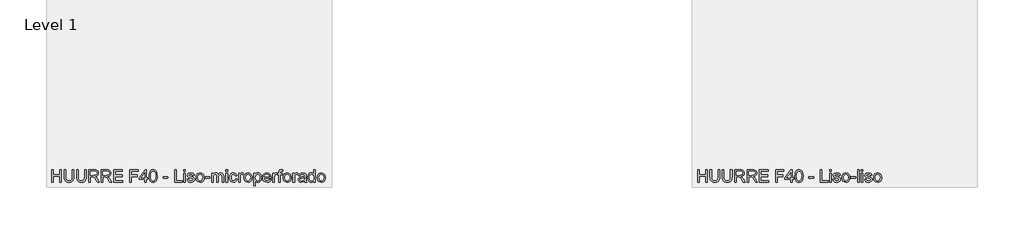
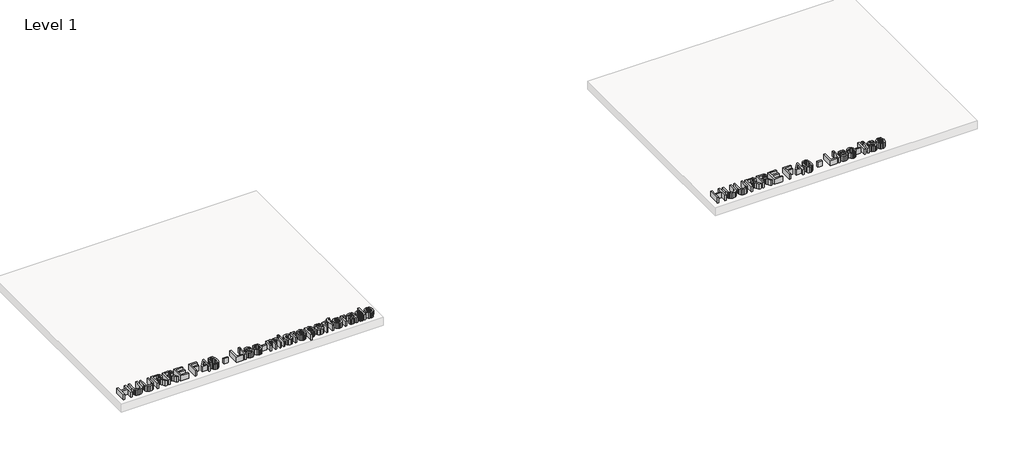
# One storey, part 2 of 2: 2 proxies.
"""IFC4 building model written with IfcOpenShell, lengths in millimetres."""

from ifc_helpers import new_model, si_unit, origin, origin_with_axes, place, context, project, spatial, polyline, outline, extrude, element, save

model = new_model("IFC4")

# Units and contexts
model_context = context("Model", 3, world=origin())
ifc_project = project(units=[si_unit("LENGTHUNIT", "METRE", prefix="MILLI")], contexts=[model_context])

# Site, building, storey
site = spatial("IfcSite", under=ifc_project)
building = spatial("IfcBuilding", under=site)
storey = spatial("IfcBuildingStorey", under=building, Name="Level 1", Elevation=0.0)

# Proxies
placement = place(None, origin())
element("IfcBuildingElementProxy", 1, Name="200mm Arial", ObjectType="200mm Arial", at=placement, inside=storey, context=model_context, shape_type="SweptSolid", body=[
    extrude(outline(polyline([(12680.8097426, 798.4307978), (12680.8097426, 999.3434181), (12705.9238201, 999.3434181), (12705.9238201, 917.7226661), (12812.6586497, 917.7226661), (12812.6586497, 999.3434181), (12837.7727272, 999.3434181), (12837.7727272, 798.4307978), (12812.6586497, 798.4307978), (12812.6586497, 892.6085886), (12705.9238201, 892.6085886), (12705.9238201, 798.4307978), (12680.8097426, 798.4307978)])), origin_with_axes(), (0.0, 0.0, 1.0), 100.0),
    extrude(outline(polyline([(13013.57127, 999.3434181), (13038.6853475, 999.3434181), (13038.6853475, 883.4360642), (13036.9808276, 856.2925043), (13031.8672679, 835.3906756), (13022.3145987, 819.2651815), (13007.2927506, 806.4506253), (12986.7649353, 798.0813099), (12960.6943645, 795.2915381), (12935.1940109, 797.7195593), (12914.807217, 805.0036228), (12899.5278515, 816.8923426), (12889.3497829, 833.1343327), (12883.6292179, 854.9190782), (12881.7223629, 883.4360642), (12881.7223629, 999.3434181), (12906.8364404, 999.3434181), (12906.8364404, 884.318981), (12908.0749765, 861.7494205), (12911.7905846, 846.034728), (12918.5228252, 835.1515523), (12928.8112583, 827.0765425), (12942.2266884, 822.0733474), (12958.3399198, 820.4056157), (12983.883193, 823.7042909), (13000.8670784, 833.6003165), (13010.3952221, 852.8773331), (13013.57127, 884.318981), (13013.57127, 999.3434181)])), origin_with_axes(), (0.0, 0.0, 1.0), 100.0),
    extrude(outline(polyline([(13214.4838903, 999.3434181), (13239.5979678, 999.3434181), (13239.5979678, 883.4360642), (13237.8934479, 856.2925043), (13232.7798882, 835.3906756), (13223.227219, 819.2651815), (13208.2053709, 806.4506253), (13187.6775556, 798.0813099), (13161.6069848, 795.2915381), (13136.1066312, 797.7195593), (13115.7198373, 805.0036228), (13100.4404718, 816.8923426), (13090.2624032, 833.1343327), (13084.5418382, 854.9190782), (13082.6349832, 883.4360642), (13082.6349832, 999.3434181), (13107.7490607, 999.3434181), (13107.7490607, 884.318981), (13108.9875968, 861.7494205), (13112.7032049, 846.034728), (13119.4354455, 835.1515523), (13129.7238786, 827.0765425), (13143.1393087, 822.0733474), (13159.2525401, 820.4056157), (13184.7958133, 823.7042909), (13201.7796987, 833.6003165), (13211.3078424, 852.8773331), (13214.4838903, 884.318981), (13214.4838903, 999.3434181)])), origin_with_axes(), (0.0, 0.0, 1.0), 100.0),
    extrude(outline(polyline([(13283.5476035, 798.4307978), (13283.5476035, 999.3434181), (13370.1224997, 999.3434181), (13393.3910359, 997.9883861), (13410.319739, 993.92329), (13422.6928368, 986.4184973), (13432.2945569, 974.7443754), (13438.4565803, 960.2682189), (13440.5105881, 944.3573226), (13437.1076797, 924.5652712), (13426.8989543, 908.1577342), (13409.5778437, 896.127993), (13384.8377795, 889.4693289), (13399.1116009, 878.7271746), (13419.467738, 852.8773331), (13452.969525, 798.4307978), (13423.7842201, 798.4307978), (13397.6400729, 840.0750397), (13378.7554639, 867.6416638), (13365.4871866, 880.6646865), (13353.5432844, 885.4471524), (13338.9751574, 886.3300692), (13308.661681, 886.3300692), (13308.661681, 798.4307978), (13283.5476035, 798.4307978)]), holes=[polyline([(13308.661681, 911.4441467), (13364.8740499, 911.4441467), (13393.5443201, 915.0003393), (13402.9743619, 919.6233898), (13409.8292297, 926.3801557), (13415.3965106, 943.4253548), (13412.7416288, 955.6758253), (13404.7769836, 965.5473255), (13391.0733793, 972.0588368), (13371.2016202, 974.2293406), (13308.661681, 974.2293406), (13308.661681, 911.4441467)])]), origin_with_axes(), (0.0, 0.0, 1.0), 100.0),
    extrude(outline(polyline([(13484.4602238, 798.4307978), (13484.4602238, 999.3434181), (13571.03512, 999.3434181), (13594.3036562, 997.9883861), (13611.2323593, 993.92329), (13623.6054571, 986.4184973), (13633.2071772, 974.7443754), (13639.3692006, 960.2682189), (13641.4232084, 944.3573226), (13638.0203, 924.5652712), (13627.8115746, 908.1577342), (13610.490464, 896.127993), (13585.7503998, 889.4693289), (13600.0242212, 878.7271746), (13620.3803583, 852.8773331), (13653.8821453, 798.4307978), (13624.6968404, 798.4307978), (13598.5526932, 840.0750397), (13579.6680842, 867.6416638), (13566.3998069, 880.6646865), (13554.4559047, 885.4471524), (13539.8877777, 886.3300692), (13509.5743013, 886.3300692), (13509.5743013, 798.4307978), (13484.4602238, 798.4307978)]), holes=[polyline([(13509.5743013, 911.4441467), (13565.7866702, 911.4441467), (13594.4569404, 915.0003393), (13603.8869822, 919.6233898), (13610.74185, 926.3801557), (13616.3091309, 943.4253548), (13613.6542491, 955.6758253), (13605.6896039, 965.5473255), (13591.9859996, 972.0588368), (13572.1142405, 974.2293406), (13509.5743013, 974.2293406), (13509.5743013, 911.4441467)])]), origin_with_axes(), (0.0, 0.0, 1.0), 100.0),
    extrude(outline(polyline([(13685.3728441, 798.4307978), (13685.3728441, 999.3434181), (13829.7787899, 999.3434181), (13829.7787899, 974.2293406), (13710.4869216, 974.2293406), (13710.4869216, 914.5834064), (13823.5002706, 914.5834064), (13823.5002706, 889.4693289), (13710.4869216, 889.4693289), (13710.4869216, 823.5448753), (13832.9180496, 823.5448753), (13832.9180496, 798.4307978), (13685.3728441, 798.4307978)])), origin_with_axes(), (0.0, 0.0, 1.0), 100.0),
    extrude(outline(polyline([(13949.0706582, 798.4307978), (13949.0706582, 999.3434181), (14084.058825, 999.3434181), (14084.058825, 974.2293406), (13974.1847358, 974.2293406), (13974.1847358, 914.5834064), (14068.3625265, 914.5834064), (14068.3625265, 889.4693289), (13974.1847358, 889.4693289), (13974.1847358, 798.4307978), (13949.0706582, 798.4307978)])), origin_with_axes(), (0.0, 0.0, 1.0), 100.0),
    extrude(outline(polyline([(14190.7936545, 798.4307978), (14190.7936545, 845.5196932), (14099.7551235, 845.5196932), (14099.7551235, 870.6337707), (14197.0721739, 996.2041584), (14215.9077321, 996.2041584), (14215.9077321, 870.6337707), (14241.0218096, 870.6337707), (14241.0218096, 845.5196932), (14215.9077321, 845.5196932), (14215.9077321, 798.4307978), (14190.7936545, 798.4307978)]), holes=[polyline([(14190.7936545, 870.6337707), (14190.7936545, 948.2323462), (14130.6572111, 870.6337707), (14190.7936545, 870.6337707)])]), origin_with_axes(), (0.0, 0.0, 1.0), 100.0),
    extrude(outline(polyline([(14262.9966275, 897.2684272), (14264.8421688, 929.4274449), (14270.3787928, 955.0749514), (14279.5513172, 974.6033539), (14292.3045597, 988.4050601), (14308.7304908, 996.6088286), (14328.921081, 999.3434181), (14344.3966503, 997.7247373), (14358.2535387, 992.868695), (14369.8418216, 984.9653635), (14378.5115739, 974.2048151), (14390.2837978, 944.4799499), (14394.8455345, 897.2684272), (14393.0183873, 865.2933504), (14387.5369456, 839.7071577), (14378.4196034, 820.160361), (14365.684755, 806.3034725), (14349.2220358, 798.0445217), (14328.921081, 795.2915381), (14302.8259848, 800.0740041), (14283.009408, 814.4214019), (14274.2538165, 829.5505489), (14267.9998226, 848.4014355), (14262.9966275, 897.2684272)]), holes=[polyline([(14288.110705, 897.3174781), (14291.053761, 857.8130832), (14299.8829288, 834.9492172), (14313.0285788, 824.041516), (14328.921081, 820.4056157), (14344.8135832, 824.0537788), (14357.9592331, 834.9982681), (14366.788401, 857.8743969), (14369.731457, 897.3174781), (14366.8865029, 935.9328249), (14358.3516406, 958.9745005), (14345.2305161, 970.4156306), (14328.6267754, 974.2293406), (14312.9059515, 970.8693517), (14300.2753363, 960.789385), (14291.1518628, 936.3129696), (14288.110705, 897.3174781)])]), origin_with_axes(), (0.0, 0.0, 1.0), 100.0),
    extrude(outline(polyline([(14489.0233253, 858.076732), (14489.0233253, 883.1908095), (14567.5048176, 883.1908095), (14567.5048176, 858.076732), (14489.0233253, 858.076732)])), origin_with_axes(), (0.0, 0.0, 1.0), 100.0),
    extrude(outline(polyline([(14677.3789068, 798.4307978), (14677.3789068, 999.3434181), (14702.4929844, 999.3434181), (14702.4929844, 823.5448753), (14802.9492945, 823.5448753), (14802.9492945, 798.4307978), (14677.3789068, 798.4307978)])), origin_with_axes(), (0.0, 0.0, 1.0), 100.0),
    extrude(outline(polyline([(14828.063372, 798.4307978), (14828.063372, 945.9760033), (14853.1774496, 945.9760033), (14853.1774496, 798.4307978), (14828.063372, 798.4307978)])), origin_with_axes(), (0.0, 0.0, 1.0), 100.0),
    extrude(outline(polyline([(14828.063372, 974.2293406), (14828.063372, 999.3434181), (14853.1774496, 999.3434181), (14853.1774496, 974.2293406), (14828.063372, 974.2293406)])), origin_with_axes(), (0.0, 0.0, 1.0), 100.0),
    extrude(outline(polyline([(14881.4307868, 842.3804335), (14906.5448644, 845.5196932), (14910.5057272, 834.7775389), (14918.1699354, 826.8803388), (14929.58654, 822.0242964), (14944.8045919, 820.4056157), (14959.8387027, 821.8894064), (14970.4091787, 826.3407785), (14976.6631726, 832.7909762), (14978.7478373, 840.2712434), (14976.6509099, 846.6723901), (14970.3601278, 851.5529579), (14944.5102863, 858.7143941), (14906.6920172, 871.0016527), (14897.1209539, 877.1759389), (14890.1863783, 885.3490505), (14884.5700465, 905.6070857), (14889.0827323, 924.3200166), (14901.3945164, 938.6183634), (14917.360595, 946.0495797), (14938.9675309, 949.115263), (14969.5262619, 944.1856443), (14980.9551292, 938.3853715), (14988.9504313, 930.8437906), (14997.5833954, 908.304887), (14972.4693179, 905.1656273), (14969.2994014, 913.0689589), (14963.0270133, 919.0225158), (14940.9295682, 924.0011855), (14926.508594, 922.8117004), (14916.8946112, 919.243245), (14911.4867458, 914.0928971), (14909.684124, 908.1577342), (14912.6762309, 900.8491453), (14922.0449591, 895.3063899), (14943.6764204, 889.9598382), (14980.5381963, 878.1385634), (14997.6569718, 864.7476588), (15002.3106791, 854.9006841), (15003.8619148, 842.9199938), (15002.0408989, 830.5346333), (14996.5778513, 818.8850367), (14987.6812384, 808.8847778), (14975.5595266, 801.4474302), (14960.9178232, 796.8305111), (14944.4612353, 795.2915381), (14919.1386913, 798.2591195), (14900.6587524, 807.1618638), (14888.3224429, 821.9016691), (14881.4307868, 842.3804335)])), origin_with_axes(), (0.0, 0.0, 1.0), 100.0),
    extrude(outline(polyline([(15025.8367327, 872.2034006), (15031.2691235, 907.7775895), (15038.0596119, 921.6007555), (15047.5662958, 932.7813024), (15067.7017037, 945.0317729), (15091.8102371, 949.115263), (15118.1935075, 944.1427247), (15139.2670145, 929.2251098), (15153.0809834, 905.5396407), (15157.6856397, 874.2635397), (15155.650026, 848.8919448), (15149.5431849, 829.5781401), (15139.542926, 815.1142463), (15125.8270589, 804.2923843), (15109.5360179, 797.5417497), (15091.8102371, 795.2915381), (15065.1081356, 800.2456823), (15044.0591542, 815.1081149), (15030.392338, 839.2902247), (15025.8367327, 872.2034006)]), holes=[polyline([(15050.9508102, 872.2524515), (15053.857078, 849.5234756), (15062.5758812, 833.3305364), (15075.6970057, 823.6368458), (15091.8102371, 820.4056157), (15107.8498921, 823.6552399), (15120.9464911, 833.4041128), (15129.6652944, 849.8116498), (15132.5715622, 873.0372664), (15129.6469003, 895.1040548), (15120.8729147, 911.0762647), (15107.7579216, 920.7699553), (15091.8102371, 924.0011855), (15075.6970057, 920.782218), (15062.5758812, 911.1253157), (15053.857078, 894.9691647), (15050.9508102, 872.2524515)])]), origin_with_axes(), (0.0, 0.0, 1.0), 100.0),
    extrude(outline(polyline([(15173.3819382, 858.076732), (15173.3819382, 883.1908095), (15251.8634305, 883.1908095), (15251.8634305, 858.076732), (15173.3819382, 858.076732)])), origin_with_axes(), (0.0, 0.0, 1.0), 100.0),
    extrude(outline(polyline([(15280.1167677, 798.4307978), (15280.1167677, 999.3434181), (15305.2308453, 999.3434181), (15305.2308453, 798.4307978), (15280.1167677, 798.4307978)])), origin_with_axes(), (0.0, 0.0, 1.0), 100.0),
    extrude(outline(polyline([(15342.9019616, 798.4307978), (15342.9019616, 945.9760033), (15368.0160391, 945.9760033), (15368.0160391, 798.4307978), (15342.9019616, 798.4307978)])), origin_with_axes(), (0.0, 0.0, 1.0), 100.0),
    extrude(outline(polyline([(15342.9019616, 974.2293406), (15342.9019616, 999.3434181), (15368.0160391, 999.3434181), (15368.0160391, 974.2293406), (15342.9019616, 974.2293406)])), origin_with_axes(), (0.0, 0.0, 1.0), 100.0),
    extrude(outline(polyline([(15396.2693763, 842.3804335), (15421.3834539, 845.5196932), (15425.3443167, 834.7775389), (15433.0085249, 826.8803388), (15444.4251295, 822.0242964), (15459.6431814, 820.4056157), (15474.6772922, 821.8894064), (15485.2477682, 826.3407785), (15491.5017622, 832.7909762), (15493.5864268, 840.2712434), (15491.4894994, 846.6723901), (15485.1987173, 851.5529579), (15459.3488758, 858.7143941), (15421.5306067, 871.0016527), (15411.9595434, 877.1759389), (15405.0249678, 885.3490505), (15399.408636, 905.6070857), (15403.9213218, 924.3200166), (15416.2331059, 938.6183634), (15432.1991845, 946.0495797), (15453.8061204, 949.115263), (15484.3648514, 944.1856443), (15495.7937188, 938.3853715), (15503.7890208, 930.8437906), (15512.4219849, 908.304887), (15487.3079074, 905.1656273), (15484.1379909, 913.0689589), (15477.8656029, 919.0225158), (15455.7681577, 924.0011855), (15441.3471835, 922.8117004), (15431.7332007, 919.243245), (15426.3253353, 914.0928971), (15424.5227136, 908.1577342), (15427.5148205, 900.8491453), (15436.8835486, 895.3063899), (15458.5150099, 889.9598382), (15495.3767858, 878.1385634), (15512.4955613, 864.7476588), (15517.1492686, 854.9006841), (15518.7005043, 842.9199938), (15516.8794885, 830.5346333), (15511.4164408, 818.8850367), (15502.5198279, 808.8847778), (15490.3981162, 801.4474302), (15475.7564128, 796.8305111), (15459.2998248, 795.2915381), (15433.9772808, 798.2591195), (15415.4973419, 807.1618638), (15403.1610324, 821.9016691), (15396.2693763, 842.3804335)])), origin_with_axes(), (0.0, 0.0, 1.0), 100.0),
    extrude(outline(polyline([(15540.6753222, 872.2034006), (15546.107713, 907.7775895), (15552.8982015, 921.6007555), (15562.4048854, 932.7813024), (15582.5402932, 945.0317729), (15606.6488266, 949.115263), (15633.0320971, 944.1427247), (15654.105604, 929.2251098), (15667.9195729, 905.5396407), (15672.5242292, 874.2635397), (15670.4886155, 848.8919448), (15664.3817744, 829.5781401), (15654.3815155, 815.1142463), (15640.6656485, 804.2923843), (15624.3746074, 797.5417497), (15606.6488266, 795.2915381), (15579.9467252, 800.2456823), (15558.8977437, 815.1081149), (15545.2309275, 839.2902247), (15540.6753222, 872.2034006)]), holes=[polyline([(15565.7893997, 872.2524515), (15568.6956675, 849.5234756), (15577.4144708, 833.3305364), (15590.5355953, 823.6368458), (15606.6488266, 820.4056157), (15622.6884816, 823.6552399), (15635.7850807, 833.4041128), (15644.5038839, 849.8116498), (15647.4101517, 873.0372664), (15644.4854898, 895.1040548), (15635.7115043, 911.0762647), (15622.5965111, 920.7699553), (15606.6488266, 924.0011855), (15590.5355953, 920.782218), (15577.4144708, 911.1253157), (15568.6956675, 894.9691647), (15565.7893997, 872.2524515)])]), origin_with_axes(), (0.0, 0.0, 1.0), 100.0),
])
element("IfcBuildingElementProxy", 2, Name="200mm Arial", ObjectType="200mm Arial", at=placement, inside=storey, context=model_context, shape_type="SweptSolid", body=[
    extrude(outline(polyline([(2180.8097426, 798.4307978), (2180.8097426, 999.3434181), (2205.9238201, 999.3434181), (2205.9238201, 917.7226661), (2312.6586497, 917.7226661), (2312.6586497, 999.3434181), (2337.7727272, 999.3434181), (2337.7727272, 798.4307978), (2312.6586497, 798.4307978), (2312.6586497, 892.6085886), (2205.9238201, 892.6085886), (2205.9238201, 798.4307978), (2180.8097426, 798.4307978)])), origin_with_axes(), (0.0, 0.0, 1.0), 100.0),
    extrude(outline(polyline([(2513.57127, 999.3434181), (2538.6853475, 999.3434181), (2538.6853475, 883.4360642), (2536.9808276, 856.2925043), (2531.8672679, 835.3906756), (2522.3145987, 819.2651815), (2507.2927506, 806.4506253), (2486.7649353, 798.0813099), (2460.6943645, 795.2915381), (2435.1940109, 797.7195593), (2414.807217, 805.0036228), (2399.5278515, 816.8923426), (2389.3497829, 833.1343327), (2383.6292179, 854.9190782), (2381.7223629, 883.4360642), (2381.7223629, 999.3434181), (2406.8364404, 999.3434181), (2406.8364404, 884.318981), (2408.0749765, 861.7494205), (2411.7905846, 846.034728), (2418.5228252, 835.1515523), (2428.8112583, 827.0765425), (2442.2266884, 822.0733474), (2458.3399198, 820.4056157), (2483.883193, 823.7042909), (2500.8670784, 833.6003165), (2510.3952221, 852.8773331), (2513.57127, 884.318981), (2513.57127, 999.3434181)])), origin_with_axes(), (0.0, 0.0, 1.0), 100.0),
    extrude(outline(polyline([(2714.4838903, 999.3434181), (2739.5979678, 999.3434181), (2739.5979678, 883.4360642), (2737.8934479, 856.2925043), (2732.7798882, 835.3906756), (2723.227219, 819.2651815), (2708.2053709, 806.4506253), (2687.6775556, 798.0813099), (2661.6069848, 795.2915381), (2636.1066312, 797.7195593), (2615.7198373, 805.0036228), (2600.4404718, 816.8923426), (2590.2624032, 833.1343327), (2584.5418382, 854.9190782), (2582.6349832, 883.4360642), (2582.6349832, 999.3434181), (2607.7490607, 999.3434181), (2607.7490607, 884.318981), (2608.9875968, 861.7494205), (2612.7032049, 846.034728), (2619.4354455, 835.1515523), (2629.7238786, 827.0765425), (2643.1393087, 822.0733474), (2659.2525401, 820.4056157), (2684.7958133, 823.7042909), (2701.7796987, 833.6003165), (2711.3078424, 852.8773331), (2714.4838903, 884.318981), (2714.4838903, 999.3434181)])), origin_with_axes(), (0.0, 0.0, 1.0), 100.0),
    extrude(outline(polyline([(2783.5476035, 798.4307978), (2783.5476035, 999.3434181), (2870.1224997, 999.3434181), (2893.3910359, 997.9883861), (2910.319739, 993.92329), (2922.6928368, 986.4184973), (2932.2945569, 974.7443754), (2938.4565803, 960.2682189), (2940.5105881, 944.3573226), (2937.1076797, 924.5652712), (2926.8989543, 908.1577342), (2909.5778437, 896.127993), (2884.8377795, 889.4693289), (2899.1116009, 878.7271746), (2919.467738, 852.8773331), (2952.969525, 798.4307978), (2923.7842201, 798.4307978), (2897.6400729, 840.0750397), (2878.7554639, 867.6416638), (2865.4871866, 880.6646865), (2853.5432844, 885.4471524), (2838.9751574, 886.3300692), (2808.661681, 886.3300692), (2808.661681, 798.4307978), (2783.5476035, 798.4307978)]), holes=[polyline([(2808.661681, 911.4441467), (2864.8740499, 911.4441467), (2893.5443201, 915.0003393), (2902.9743619, 919.6233898), (2909.8292297, 926.3801557), (2915.3965106, 943.4253548), (2912.7416288, 955.6758253), (2904.7769836, 965.5473255), (2891.0733793, 972.0588368), (2871.2016202, 974.2293406), (2808.661681, 974.2293406), (2808.661681, 911.4441467)])]), origin_with_axes(), (0.0, 0.0, 1.0), 100.0),
    extrude(outline(polyline([(2984.4602238, 798.4307978), (2984.4602238, 999.3434181), (3071.03512, 999.3434181), (3094.3036562, 997.9883861), (3111.2323593, 993.92329), (3123.6054571, 986.4184973), (3133.2071772, 974.7443754), (3139.3692006, 960.2682189), (3141.4232084, 944.3573226), (3138.0203, 924.5652712), (3127.8115746, 908.1577342), (3110.490464, 896.127993), (3085.7503998, 889.4693289), (3100.0242212, 878.7271746), (3120.3803583, 852.8773331), (3153.8821453, 798.4307978), (3124.6968404, 798.4307978), (3098.5526932, 840.0750397), (3079.6680842, 867.6416638), (3066.3998069, 880.6646865), (3054.4559047, 885.4471524), (3039.8877777, 886.3300692), (3009.5743013, 886.3300692), (3009.5743013, 798.4307978), (2984.4602238, 798.4307978)]), holes=[polyline([(3009.5743013, 911.4441467), (3065.7866702, 911.4441467), (3094.4569404, 915.0003393), (3103.8869822, 919.6233898), (3110.74185, 926.3801557), (3116.3091309, 943.4253548), (3113.6542491, 955.6758253), (3105.6896039, 965.5473255), (3091.9859996, 972.0588368), (3072.1142405, 974.2293406), (3009.5743013, 974.2293406), (3009.5743013, 911.4441467)])]), origin_with_axes(), (0.0, 0.0, 1.0), 100.0),
    extrude(outline(polyline([(3185.3728441, 798.4307978), (3185.3728441, 999.3434181), (3329.7787899, 999.3434181), (3329.7787899, 974.2293406), (3210.4869216, 974.2293406), (3210.4869216, 914.5834064), (3323.5002706, 914.5834064), (3323.5002706, 889.4693289), (3210.4869216, 889.4693289), (3210.4869216, 823.5448753), (3332.9180496, 823.5448753), (3332.9180496, 798.4307978), (3185.3728441, 798.4307978)])), origin_with_axes(), (0.0, 0.0, 1.0), 100.0),
    extrude(outline(polyline([(3449.0706582, 798.4307978), (3449.0706582, 999.3434181), (3584.058825, 999.3434181), (3584.058825, 974.2293406), (3474.1847358, 974.2293406), (3474.1847358, 914.5834064), (3568.3625265, 914.5834064), (3568.3625265, 889.4693289), (3474.1847358, 889.4693289), (3474.1847358, 798.4307978), (3449.0706582, 798.4307978)])), origin_with_axes(), (0.0, 0.0, 1.0), 100.0),
    extrude(outline(polyline([(3690.7936545, 798.4307978), (3690.7936545, 845.5196932), (3599.7551235, 845.5196932), (3599.7551235, 870.6337707), (3697.0721739, 996.2041584), (3715.9077321, 996.2041584), (3715.9077321, 870.6337707), (3741.0218096, 870.6337707), (3741.0218096, 845.5196932), (3715.9077321, 845.5196932), (3715.9077321, 798.4307978), (3690.7936545, 798.4307978)]), holes=[polyline([(3690.7936545, 870.6337707), (3690.7936545, 948.2323462), (3630.6572111, 870.6337707), (3690.7936545, 870.6337707)])]), origin_with_axes(), (0.0, 0.0, 1.0), 100.0),
    extrude(outline(polyline([(3762.9966275, 897.2684272), (3764.8421688, 929.4274449), (3770.3787928, 955.0749514), (3779.5513172, 974.6033539), (3792.3045597, 988.4050601), (3808.7304908, 996.6088286), (3828.921081, 999.3434181), (3844.3966503, 997.7247373), (3858.2535387, 992.868695), (3869.8418216, 984.9653635), (3878.5115739, 974.2048151), (3890.2837978, 944.4799499), (3894.8455345, 897.2684272), (3893.0183873, 865.2933504), (3887.5369456, 839.7071577), (3878.4196034, 820.160361), (3865.684755, 806.3034725), (3849.2220358, 798.0445217), (3828.921081, 795.2915381), (3802.8259848, 800.0740041), (3783.009408, 814.4214019), (3774.2538165, 829.5505489), (3767.9998226, 848.4014355), (3762.9966275, 897.2684272)]), holes=[polyline([(3788.110705, 897.3174781), (3791.053761, 857.8130832), (3799.8829288, 834.9492172), (3813.0285788, 824.041516), (3828.921081, 820.4056157), (3844.8135832, 824.0537788), (3857.9592331, 834.9982681), (3866.788401, 857.8743969), (3869.731457, 897.3174781), (3866.8865029, 935.9328249), (3858.3516406, 958.9745005), (3845.2305161, 970.4156306), (3828.6267754, 974.2293406), (3812.9059515, 970.8693517), (3800.2753363, 960.789385), (3791.1518628, 936.3129696), (3788.110705, 897.3174781)])]), origin_with_axes(), (0.0, 0.0, 1.0), 100.0),
    extrude(outline(polyline([(3989.0233253, 858.076732), (3989.0233253, 883.1908095), (4067.5048176, 883.1908095), (4067.5048176, 858.076732), (3989.0233253, 858.076732)])), origin_with_axes(), (0.0, 0.0, 1.0), 100.0),
    extrude(outline(polyline([(4177.3789068, 798.4307978), (4177.3789068, 999.3434181), (4202.4929844, 999.3434181), (4202.4929844, 823.5448753), (4302.9492945, 823.5448753), (4302.9492945, 798.4307978), (4177.3789068, 798.4307978)])), origin_with_axes(), (0.0, 0.0, 1.0), 100.0),
    extrude(outline(polyline([(4328.063372, 798.4307978), (4328.063372, 945.9760033), (4353.1774496, 945.9760033), (4353.1774496, 798.4307978), (4328.063372, 798.4307978)])), origin_with_axes(), (0.0, 0.0, 1.0), 100.0),
    extrude(outline(polyline([(4328.063372, 974.2293406), (4328.063372, 999.3434181), (4353.1774496, 999.3434181), (4353.1774496, 974.2293406), (4328.063372, 974.2293406)])), origin_with_axes(), (0.0, 0.0, 1.0), 100.0),
    extrude(outline(polyline([(4381.4307868, 842.3804335), (4406.5448644, 845.5196932), (4410.5057272, 834.7775389), (4418.1699354, 826.8803388), (4429.58654, 822.0242964), (4444.8045919, 820.4056157), (4459.8387027, 821.8894064), (4470.4091787, 826.3407785), (4476.6631726, 832.7909762), (4478.7478373, 840.2712434), (4476.6509099, 846.6723901), (4470.3601278, 851.5529579), (4444.5102863, 858.7143941), (4406.6920172, 871.0016527), (4397.1209539, 877.1759389), (4390.1863783, 885.3490505), (4384.5700465, 905.6070857), (4389.0827323, 924.3200166), (4401.3945164, 938.6183634), (4417.360595, 946.0495797), (4438.9675309, 949.115263), (4469.5262619, 944.1856443), (4480.9551292, 938.3853715), (4488.9504313, 930.8437906), (4497.5833954, 908.304887), (4472.4693179, 905.1656273), (4469.2994014, 913.0689589), (4463.0270133, 919.0225158), (4440.9295682, 924.0011855), (4426.508594, 922.8117004), (4416.8946112, 919.243245), (4411.4867458, 914.0928971), (4409.684124, 908.1577342), (4412.6762309, 900.8491453), (4422.0449591, 895.3063899), (4443.6764204, 889.9598382), (4480.5381963, 878.1385634), (4497.6569718, 864.7476588), (4502.3106791, 854.9006841), (4503.8619148, 842.9199938), (4502.0408989, 830.5346333), (4496.5778513, 818.8850367), (4487.6812384, 808.8847778), (4475.5595266, 801.4474302), (4460.9178232, 796.8305111), (4444.4612353, 795.2915381), (4419.1386913, 798.2591195), (4400.6587524, 807.1618638), (4388.3224429, 821.9016691), (4381.4307868, 842.3804335)])), origin_with_axes(), (0.0, 0.0, 1.0), 100.0),
    extrude(outline(polyline([(4525.8367327, 872.2034006), (4531.2691235, 907.7775895), (4538.0596119, 921.6007555), (4547.5662958, 932.7813024), (4567.7017037, 945.0317729), (4591.8102371, 949.115263), (4618.1935075, 944.1427247), (4639.2670145, 929.2251098), (4653.0809834, 905.5396407), (4657.6856397, 874.2635397), (4655.650026, 848.8919448), (4649.5431849, 829.5781401), (4639.542926, 815.1142463), (4625.8270589, 804.2923843), (4609.5360179, 797.5417497), (4591.8102371, 795.2915381), (4565.1081356, 800.2456823), (4544.0591542, 815.1081149), (4530.392338, 839.2902247), (4525.8367327, 872.2034006)]), holes=[polyline([(4550.9508102, 872.2524515), (4553.857078, 849.5234756), (4562.5758812, 833.3305364), (4575.6970057, 823.6368458), (4591.8102371, 820.4056157), (4607.8498921, 823.6552399), (4620.9464911, 833.4041128), (4629.6652944, 849.8116498), (4632.5715622, 873.0372664), (4629.6469003, 895.1040548), (4620.8729147, 911.0762647), (4607.7579216, 920.7699553), (4591.8102371, 924.0011855), (4575.6970057, 920.782218), (4562.5758812, 911.1253157), (4553.857078, 894.9691647), (4550.9508102, 872.2524515)])]), origin_with_axes(), (0.0, 0.0, 1.0), 100.0),
    extrude(outline(polyline([(4673.3819382, 858.076732), (4673.3819382, 883.1908095), (4751.8634305, 883.1908095), (4751.8634305, 858.076732), (4673.3819382, 858.076732)])), origin_with_axes(), (0.0, 0.0, 1.0), 100.0),
    extrude(outline(polyline([(4780.1167677, 798.4307978), (4780.1167677, 945.9760033), (4805.2308453, 945.9760033), (4805.2308453, 921.6957917), (4812.7846889, 932.8487475), (4822.4967736, 941.5859449), (4834.0360055, 947.2329335), (4847.0712908, 949.115263), (4861.0385439, 947.1961453), (4872.2344193, 941.4387921), (4880.5976033, 932.2233481), (4886.0667823, 919.9299581), (4895.2209126, 932.698529), (4905.6626299, 941.8189368), (4917.3919342, 947.2911815), (4930.4088255, 949.115263), (4949.2873032, 946.0802366), (4963.2484249, 936.9751572), (4971.8752577, 921.5547702), (4974.7508686, 899.573821), (4974.7508686, 798.4307978), (4949.6367911, 798.4307978), (4949.6367911, 888.7826158), (4947.3068718, 909.7518896), (4938.8701114, 920.0771109), (4924.5227136, 924.0011855), (4910.9172111, 921.4873252), (4899.825569, 913.9457443), (4892.4495349, 900.861408), (4889.9908569, 881.7192815), (4889.9908569, 798.4307978), (4864.8767794, 798.4307978), (4864.8767794, 891.578519), (4863.4236455, 905.778764), (4859.0642439, 915.9077816), (4851.3939043, 921.9778345), (4840.0079565, 924.0011855), (4821.417653, 918.6055829), (4814.0600131, 911.9591815), (4809.056818, 902.8111826), (4805.2308453, 872.8410627), (4805.2308453, 798.4307978), (4780.1167677, 798.4307978)])), origin_with_axes(), (0.0, 0.0, 1.0), 100.0),
    extrude(outline(polyline([(5012.4219849, 974.2293406), (5012.4219849, 999.3434181), (5037.5360625, 999.3434181), (5037.5360625, 974.2293406), (5012.4219849, 974.2293406)])), origin_with_axes(), (0.0, 0.0, 1.0), 100.0),
    extrude(outline(polyline([(5012.4219849, 798.4307978), (5012.4219849, 945.9760033), (5037.5360625, 945.9760033), (5037.5360625, 798.4307978), (5012.4219849, 798.4307978)])), origin_with_axes(), (0.0, 0.0, 1.0), 100.0),
    extrude(outline(polyline([(5169.3849696, 851.7982126), (5194.4990471, 848.6589529), (5187.4970264, 826.3223844), (5174.3391138, 809.4427322), (5156.2638451, 798.8293366), (5134.5097564, 795.2915381), (5107.7953922, 800.2272882), (5086.9058262, 815.0345385), (5073.4229511, 839.0633642), (5068.9286594, 871.6638403), (5070.8477771, 894.0126715), (5076.6051304, 913.3816586), (5086.2926896, 929.0227747), (5100.0024253, 940.1879933), (5116.4038309, 946.8834456), (5134.1663999, 949.115263), (5155.3870596, 946.0495797), (5172.352551, 936.8525299), (5184.5233137, 922.0146227), (5191.3597874, 902.0263677), (5166.2457099, 898.887108), (5161.6901045, 909.8438601), (5154.5961133, 917.6981406), (5145.3561439, 922.4254243), (5134.3626036, 924.0011855), (5118.1328763, 920.898714), (5105.2508751, 911.5912995), (5096.8447715, 895.57617), (5094.0427369, 872.3505534), (5096.7834578, 848.8122371), (5105.0056204, 832.7419252), (5117.6546297, 823.489693), (5133.6758906, 820.4056157), (5146.6805191, 822.3308648), (5157.3429656, 828.1066121), (5165.0991443, 837.8800104), (5169.3849696, 851.7982126)])), origin_with_axes(), (0.0, 0.0, 1.0), 100.0),
    extrude(outline(polyline([(5216.4738649, 798.4307978), (5216.4738649, 945.9760033), (5238.4486828, 945.9760033), (5238.4486828, 924.1483383), (5254.0468794, 944.2592207), (5269.7431778, 949.115263), (5282.2511657, 947.1777512), (5294.9553572, 941.3652157), (5286.5676477, 918.8508376), (5268.909312, 924.0011855), (5254.709067, 919.0470413), (5245.6591699, 905.3127801), (5241.5879425, 875.9803224), (5241.5879425, 798.4307978), (5216.4738649, 798.4307978)])), origin_with_axes(), (0.0, 0.0, 1.0), 100.0),
    extrude(outline(polyline([(5304.3731363, 872.2034006), (5309.8055271, 907.7775895), (5316.5960156, 921.6007555), (5326.1026995, 932.7813024), (5346.2381074, 945.0317729), (5370.3466408, 949.115263), (5396.7299112, 944.1427247), (5417.8034182, 929.2251098), (5431.6173871, 905.5396407), (5436.2220434, 874.2635397), (5434.1864297, 848.8919448), (5428.0795886, 829.5781401), (5418.0793297, 815.1142463), (5404.3634626, 804.2923843), (5388.0724216, 797.5417497), (5370.3466408, 795.2915381), (5343.6445393, 800.2456823), (5322.5955578, 815.1081149), (5308.9287417, 839.2902247), (5304.3731363, 872.2034006)]), holes=[polyline([(5329.4872139, 872.2524515), (5332.3934816, 849.5234756), (5341.1122849, 833.3305364), (5354.2334094, 823.6368458), (5370.3466408, 820.4056157), (5386.3862958, 823.6552399), (5399.4828948, 833.4041128), (5408.2016981, 849.8116498), (5411.1079658, 873.0372664), (5408.183304, 895.1040548), (5399.4093184, 911.0762647), (5386.2943253, 920.7699553), (5370.3466408, 924.0011855), (5354.2334094, 920.782218), (5341.1122849, 911.1253157), (5332.3934816, 894.9691647), (5329.4872139, 872.2524515)])]), origin_with_axes(), (0.0, 0.0, 1.0), 100.0),
    extrude(outline(polyline([(5464.4753806, 741.9241234), (5464.4753806, 945.9760033), (5489.5894582, 945.9760033), (5489.5894582, 921.3524351), (5506.9534883, 942.1745561), (5517.6465917, 947.3800863), (5530.3998342, 949.115263), (5547.3837196, 946.6872419), (5562.2338895, 939.4031784), (5574.3249444, 927.7045309), (5583.0314849, 912.0327579), (5588.2921975, 893.5282936), (5590.0457683, 873.331572), (5588.0653369, 851.8533949), (5582.1240427, 832.6438234), (5572.411958, 816.6777448), (5559.1191552, 804.9300464), (5543.6374546, 797.7011652), (5527.3586763, 795.2915381), (5515.813313, 796.9040875), (5505.5064858, 801.7417358), (5489.5894582, 818.0511709), (5489.5894582, 741.9241234), (5464.4753806, 741.9241234)]), holes=[polyline([(5489.5894582, 871.0261782), (5492.3056536, 848.5118001), (5500.4542397, 832.7664507), (5512.4778496, 823.4958244), (5526.8191161, 820.4056157), (5541.3933744, 823.606189), (5553.7235526, 833.2079091), (5562.1296562, 849.5296069), (5564.9316908, 872.8901136), (5562.1971013, 895.2818644), (5553.9933328, 911.247943), (5541.988117, 920.8128749), (5527.8491857, 924.0011855), (5513.655072, 920.6105398), (5501.1900037, 910.4386026), (5492.4895945, 893.8042051), (5489.5894582, 871.0261782)])]), origin_with_axes(), (0.0, 0.0, 1.0), 100.0),
    extrude(outline(polyline([(5721.6003698, 842.3804335), (5746.223938, 839.2411738), (5737.3518505, 820.6876585), (5723.1945251, 806.8185073), (5704.0707927, 798.1732804), (5680.2994845, 795.2915381), (5650.8321366, 800.2640764), (5628.158343, 815.1816913), (5613.7005806, 839.0756269), (5608.8813265, 870.9771273), (5613.7496315, 903.9516168), (5628.3545467, 928.6119732), (5650.721772, 943.9894406), (5678.8770074, 949.115263), (5706.1554573, 944.0017033), (5727.9524656, 928.6610241), (5742.2446811, 904.0497186), (5747.0087529, 871.1242801), (5746.8616001, 864.3552513), (5633.995404, 864.3552513), (5638.3425429, 845.5564814), (5648.4409037, 831.7363811), (5663.015162, 823.238307), (5680.7899938, 820.4056157), (5705.413562, 825.6540655), (5714.5615609, 832.4598824), (5721.6003698, 842.3804335)]), holes=[polyline([(5633.995404, 889.4693289), (5721.8946754, 889.4693289), (5718.4978983, 902.7376062), (5711.8392342, 912.2289617), (5697.1975308, 921.0581295), (5678.7789055, 924.0011855), (5661.8502024, 921.6528721), (5647.8522925, 914.6079319), (5638.1218137, 903.6266543), (5633.995404, 889.4693289)])]), origin_with_axes(), (0.0, 0.0, 1.0), 100.0),
    extrude(outline(polyline([(5872.5791406, 798.4307978), (5872.5791406, 920.8619258), (5850.6043228, 920.8619258), (5850.6043228, 941.3652157), (5850.6043228, 945.9760033), (5872.5791406, 945.9760033), (5872.5791406, 960.8384359), (5875.227891, 981.7831842), (5880.280137, 990.1341055), (5888.0792353, 996.7437187), (5898.9930679, 1001.047938), (5913.3895166, 1002.4826778), (5936.2963022, 999.7358256), (5932.6174822, 976.1913779), (5918.1474571, 977.3686003), (5902.3285313, 973.199271), (5898.8520464, 967.2273199), (5897.6932181, 957.6501253), (5897.6932181, 945.9760033), (5925.9465554, 945.9760033), (5925.9465554, 920.8619258), (5897.6932181, 920.8619258), (5897.6932181, 798.4307978), (5872.5791406, 798.4307978)])), origin_with_axes(), (0.0, 0.0, 1.0), 100.0),
    extrude(outline(polyline([(5772.1228305, 798.4307978), (5772.1228305, 945.9760033), (5794.0976483, 945.9760033), (5794.0976483, 924.1483383), (5809.6958449, 944.2592207), (5825.3921434, 949.115263), (5837.9001312, 947.1777512), (5850.6043228, 941.3652157), (5842.2166133, 918.8508376), (5824.5582775, 924.0011855), (5810.3580325, 919.0470413), (5801.3081354, 905.3127801), (5797.236908, 875.9803224), (5797.236908, 798.4307978), (5772.1228305, 798.4307978)])), origin_with_axes(), (0.0, 0.0, 1.0), 100.0),
    extrude(outline(polyline([(5941.6428538, 872.2034006), (5947.0752446, 907.7775895), (5953.8657331, 921.6007555), (5963.372417, 932.7813024), (5983.5078249, 945.0317729), (6007.6163583, 949.115263), (6033.9996287, 944.1427247), (6055.0731357, 929.2251098), (6068.8871046, 905.5396407), (6073.4917609, 874.2635397), (6071.4561472, 848.8919448), (6065.3493061, 829.5781401), (6055.3490472, 815.1142463), (6041.6331801, 804.2923843), (6025.3421391, 797.5417497), (6007.6163583, 795.2915381), (5980.9142568, 800.2456823), (5959.8652753, 815.1081149), (5946.1984592, 839.2902247), (5941.6428538, 872.2034006)]), holes=[polyline([(5966.7569314, 872.2524515), (5969.6631991, 849.5234756), (5978.3820024, 833.3305364), (5991.5031269, 823.6368458), (6007.6163583, 820.4056157), (6023.6560133, 823.6552399), (6036.7526123, 833.4041128), (6045.4714156, 849.8116498), (6048.3776834, 873.0372664), (6045.4530215, 895.1040548), (6036.6790359, 911.0762647), (6023.5640428, 920.7699553), (6007.6163583, 924.0011855), (5991.5031269, 920.782218), (5978.3820024, 911.1253157), (5969.6631991, 894.9691647), (5966.7569314, 872.2524515)])]), origin_with_axes(), (0.0, 0.0, 1.0), 100.0),
    extrude(outline(polyline([(6101.7450981, 798.4307978), (6101.7450981, 945.9760033), (6123.719916, 945.9760033), (6123.719916, 924.1483383), (6139.3181126, 944.2592207), (6155.014411, 949.115263), (6167.5223989, 947.1777512), (6180.2265904, 941.3652157), (6171.8388809, 918.8508376), (6154.1805452, 924.0011855), (6139.9803002, 919.0470413), (6130.9304031, 905.3127801), (6126.8591757, 875.9803224), (6126.8591757, 798.4307978), (6101.7450981, 798.4307978)])), origin_with_axes(), (0.0, 0.0, 1.0), 100.0),
    extrude(outline(polyline([(6290.1006797, 817.266356), (6265.7468916, 800.2456823), (6238.842455, 795.2915381), (6217.8547872, 798.2713823), (6202.3730865, 807.2109148), (6192.8265488, 820.7857604), (6189.6443695, 837.671544), (6194.4513609, 857.5371717), (6207.0819761, 871.9581459), (6224.6667355, 880.1987026), (6246.3962986, 883.9756244), (6289.9535269, 892.6085886), (6290.1006797, 898.2003949), (6288.3716343, 909.408533), (6283.1844981, 916.7416475), (6271.5839526, 922.186301), (6255.4216702, 924.0011855), (6240.4611358, 922.7933063), (6230.0132871, 919.1696686), (6222.8886391, 912.4680849), (6217.8977067, 902.0263677), (6192.7836292, 905.1656273), (6203.6484108, 929.6910937), (6212.9067743, 937.9439131), (6225.5251268, 944.063017), (6258.6590318, 949.115263), (6289.0951355, 944.6516282), (6306.2874874, 933.44349), (6313.9884839, 916.3982909), (6315.2147572, 894.4234731), (6315.2147572, 863.178029), (6316.4900814, 819.5472243), (6321.4932766, 798.4307978), (6296.379199, 798.4307978), (6290.1006797, 817.266356)]), holes=[polyline([(6290.1006797, 867.494511), (6249.5846093, 859.7935146), (6227.9776734, 855.7222872), (6218.1920123, 849.1004113), (6214.758447, 839.4373775), (6216.6285139, 831.969373), (6222.2387143, 825.8502692), (6231.466421, 821.766779), (6244.1890067, 820.4056157), (6257.6780132, 821.9078005), (6269.5973898, 826.4143549), (6285.9804013, 840.9579565), (6289.9535269, 860.3821258), (6290.1006797, 867.494511)])]), origin_with_axes(), (0.0, 0.0, 1.0), 100.0),
    extrude(outline(polyline([(6440.7851449, 798.4307978), (6440.7851449, 822.1223983), (6433.2711551, 810.383897), (6424.1691414, 801.9992532), (6413.4791038, 796.9684669), (6401.2010422, 795.2915381), (6384.9651835, 797.7195593), (6370.1027509, 805.0036228), (6357.5211866, 816.6348252), (6348.127933, 832.1042631), (6342.2786093, 850.7865371), (6340.3288347, 872.0562478), (6342.1253251, 893.0623097), (6347.5147964, 912.0327579), (6356.4911171, 927.8884719), (6369.0481558, 939.5503312), (6384.2355509, 946.7240301), (6401.1029403, 949.115263), (6413.390199, 947.4046118), (6424.2549806, 942.2726579), (6440.7851449, 924.4916948), (6440.7851449, 999.3434181), (6465.8992224, 999.3434181), (6465.8992224, 798.4307978), (6440.7851449, 798.4307978)]), holes=[polyline([(6365.4429123, 872.1543496), (6368.2756036, 849.4376364), (6376.7736777, 833.2814855), (6389.12225, 823.6245831), (6403.506436, 820.4056157), (6417.8844907, 823.4774303), (6429.9203633, 832.6928743), (6438.0689495, 848.2236259), (6440.7851449, 870.2413633), (6438.0198986, 894.3131085), (6429.7241596, 911.0026883), (6417.3817186, 920.7515612), (6402.4763665, 924.0011855), (6387.9450276, 920.8803199), (6376.0379137, 911.5177231), (6368.0916626, 895.4351486), (6365.4429123, 872.1543496)])]), origin_with_axes(), (0.0, 0.0, 1.0), 100.0),
    extrude(outline(polyline([(6497.2918193, 872.2034006), (6502.7242101, 907.7775895), (6509.5146986, 921.6007555), (6519.0213825, 932.7813024), (6539.1567904, 945.0317729), (6563.2653238, 949.115263), (6589.6485942, 944.1427247), (6610.7221012, 929.2251098), (6624.5360701, 905.5396407), (6629.1407264, 874.2635397), (6627.1051127, 848.8919448), (6620.9982716, 829.5781401), (6610.9980127, 815.1142463), (6597.2821456, 804.2923843), (6580.9911046, 797.5417497), (6563.2653238, 795.2915381), (6536.5632223, 800.2456823), (6515.5142408, 815.1081149), (6501.8474247, 839.2902247), (6497.2918193, 872.2034006)]), holes=[polyline([(6522.4058969, 872.2524515), (6525.3121646, 849.5234756), (6534.0309679, 833.3305364), (6547.1520924, 823.6368458), (6563.2653238, 820.4056157), (6579.3049788, 823.6552399), (6592.4015778, 833.4041128), (6601.1203811, 849.8116498), (6604.0266489, 873.0372664), (6601.101987, 895.1040548), (6592.3280014, 911.0762647), (6579.2130083, 920.7699553), (6563.2653238, 924.0011855), (6547.1520924, 920.782218), (6534.0309679, 911.1253157), (6525.3121646, 894.9691647), (6522.4058969, 872.2524515)])]), origin_with_axes(), (0.0, 0.0, 1.0), 100.0),
])

save(model, "model.ifc")
